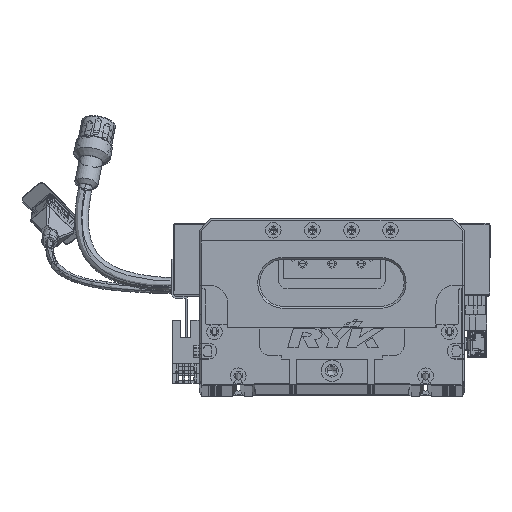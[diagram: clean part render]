
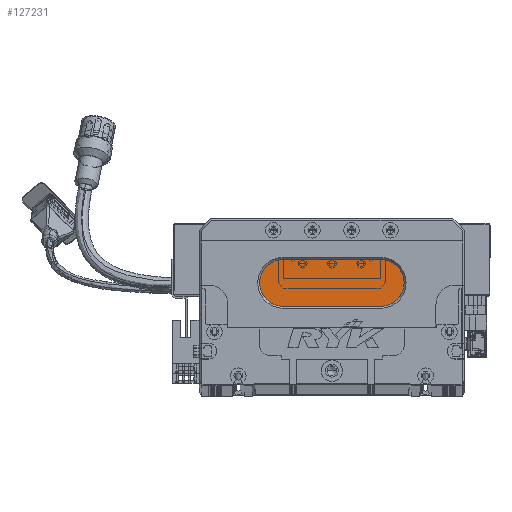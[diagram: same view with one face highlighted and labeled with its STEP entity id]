
A CAD part, top view. The second image highlights one B-rep face of the part: STEP entity #127231.
In plain terms, the highlighted planar face has unit normal (0, 0, 1) as drawn and (0, 0, -1) by its records, which use the part's own axes.
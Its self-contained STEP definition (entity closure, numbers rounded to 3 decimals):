
#6570 = EDGE_CURVE ( 'NONE', #105116, #104021, #92611, .T. ) ;
#16878 = CARTESIAN_POINT ( 'NONE',  ( 43., 64., 13. ) ) ;
#18827 = CARTESIAN_POINT ( 'NONE',  ( 93., 52., 13. ) ) ;
#21484 = ORIENTED_EDGE ( 'NONE', *, *, #86372, .T. ) ;
#23532 = DIRECTION ( 'NONE',  ( 1., 0., 0. ) ) ;
#24591 = AXIS2_PLACEMENT_3D ( 'NONE', #18827, #109315, #97375 ) ;
#26100 = EDGE_CURVE ( 'NONE', #124933, #77511, #44352, .T. ) ;
#27574 = DIRECTION ( 'NONE',  ( -1., 0., 0. ) ) ;
#29286 = AXIS2_PLACEMENT_3D ( 'NONE', #74303, #61456, #27574 ) ;
#44352 = CIRCLE ( 'NONE', #29286, 12. ) ;
#45169 = VERTEX_POINT ( 'NONE', #71601 ) ;
#48754 = CARTESIAN_POINT ( 'NONE',  ( 43., 52., 13. ) ) ;
#53642 = CIRCLE ( 'NONE', #122382, 12. ) ;
#61456 = DIRECTION ( 'NONE',  ( 0., 0., -1. ) ) ;
#68120 = VECTOR ( 'NONE', #121796, 1000. ) ;
#68863 = CARTESIAN_POINT ( 'NONE',  ( 93., 64., 13. ) ) ;
#71601 = CARTESIAN_POINT ( 'NONE',  ( 93., 40., 13. ) ) ;
#73637 = FACE_OUTER_BOUND ( 'NONE', #78464, .T. ) ;
#74303 = CARTESIAN_POINT ( 'NONE',  ( 43., 52., 13. ) ) ;
#77511 = VERTEX_POINT ( 'NONE', #78138 ) ;
#78138 = CARTESIAN_POINT ( 'NONE',  ( 31., 52., 13. ) ) ;
#78464 = EDGE_LOOP ( 'NONE', ( #86543, #21484, #142634, #123349, #91551 ) ) ;
#78784 = CARTESIAN_POINT ( 'NONE',  ( 43., 40., 13. ) ) ;
#86372 = EDGE_CURVE ( 'NONE', #45169, #124933, #132144, .T. ) ;
#86543 = ORIENTED_EDGE ( 'NONE', *, *, #94784, .T. ) ;
#91551 = ORIENTED_EDGE ( 'NONE', *, *, #6570, .T. ) ;
#92611 = LINE ( 'NONE', #68863, #146098 ) ;
#94784 = EDGE_CURVE ( 'NONE', #104021, #45169, #131612, .T. ) ;
#95664 = PLANE ( 'NONE',  #101048 ) ;
#97375 = DIRECTION ( 'NONE',  ( -1., 0., 0. ) ) ;
#101048 = AXIS2_PLACEMENT_3D ( 'NONE', #131508, #119543, #118579 ) ;
#101322 = EDGE_CURVE ( 'NONE', #77511, #105116, #53642, .T. ) ;
#104021 = VERTEX_POINT ( 'NONE', #129147 ) ;
#105116 = VERTEX_POINT ( 'NONE', #16878 ) ;
#109315 = DIRECTION ( 'NONE',  ( 0., 0., -1. ) ) ;
#116317 = DIRECTION ( 'NONE',  ( 0., 0., -1. ) ) ;
#118579 = DIRECTION ( 'NONE',  ( -1., 0., 0. ) ) ;
#119543 = DIRECTION ( 'NONE',  ( 0., 0., -1. ) ) ;
#120821 = CARTESIAN_POINT ( 'NONE',  ( 93., 40., 13. ) ) ;
#121796 = DIRECTION ( 'NONE',  ( -1., 0., 0. ) ) ;
#122382 = AXIS2_PLACEMENT_3D ( 'NONE', #48754, #116317, #139209 ) ;
#123349 = ORIENTED_EDGE ( 'NONE', *, *, #101322, .T. ) ;
#124933 = VERTEX_POINT ( 'NONE', #78784 ) ;
#127231 = ADVANCED_FACE ( 'NONE', ( #73637 ), #95664, .T. ) ;
#129147 = CARTESIAN_POINT ( 'NONE',  ( 93., 64., 13. ) ) ;
#131508 = CARTESIAN_POINT ( 'NONE',  ( 93., 52., 13. ) ) ;
#131612 = CIRCLE ( 'NONE', #24591, 12. ) ;
#132144 = LINE ( 'NONE', #120821, #68120 ) ;
#139209 = DIRECTION ( 'NONE',  ( -1., 0., 0. ) ) ;
#142634 = ORIENTED_EDGE ( 'NONE', *, *, #26100, .T. ) ;
#146098 = VECTOR ( 'NONE', #23532, 1000. ) ;
